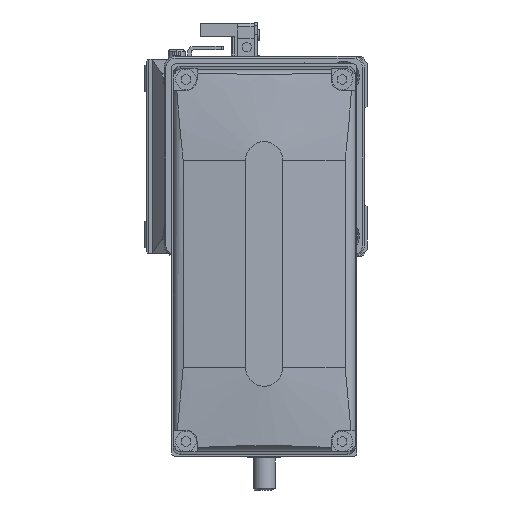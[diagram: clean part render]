
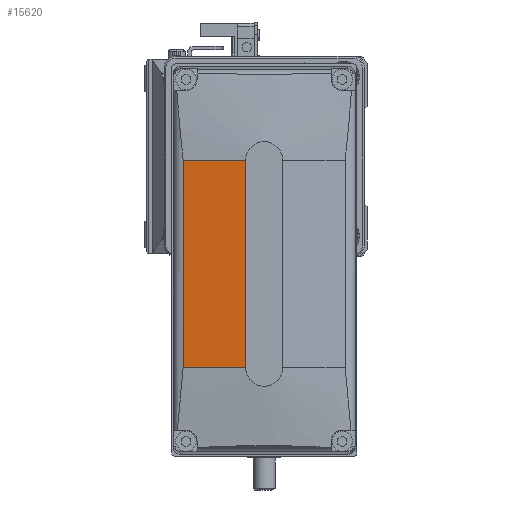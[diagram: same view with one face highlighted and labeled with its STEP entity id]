
A CAD part, left-side view. The second image highlights one B-rep face of the part: STEP entity #15620.
In plain terms, the highlighted planar face has unit normal (-0.996, 0.087, 0) as drawn and (-0.996, 0, -0.087) by its records, which use the part's own axes.
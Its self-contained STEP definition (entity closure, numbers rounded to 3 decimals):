
#1098 = CARTESIAN_POINT ( 'NONE',  ( -50., 128., -5. ) ) ;
#1457 = CARTESIAN_POINT ( 'NONE',  ( -50., -28., -5. ) ) ;
#2751 = EDGE_CURVE ( 'NONE', #3357, #34764, #13392, .T. ) ;
#3206 = VERTEX_POINT ( 'NONE', #1457 ) ;
#3357 = VERTEX_POINT ( 'NONE', #34294 ) ;
#3978 = CARTESIAN_POINT ( 'NONE',  ( 43606.406, 28., -499000. ) ) ;
#4040 = DIRECTION ( 'NONE',  ( -0.996, 0., -0.087 ) ) ;
#4070 = CARTESIAN_POINT ( 'NONE',  ( 43606.406, -28., -499000. ) ) ;
#4610 = ORIENTED_EDGE ( 'NONE', *, *, #23507, .F. ) ;
#5188 = FACE_OUTER_BOUND ( 'NONE', #12129, .T. ) ;
#7132 = DIRECTION ( 'NONE',  ( -0.087, 0., 0.996 ) ) ;
#7193 = DIRECTION ( 'NONE',  ( -0.087, 0., 0.996 ) ) ;
#8089 = CARTESIAN_POINT ( 'NONE',  ( -48.525, -28., -21.861 ) ) ;
#8171 = EDGE_CURVE ( 'NONE', #3206, #36326, #12073, .T. ) ;
#11138 = VECTOR ( 'NONE', #21586, 1000. ) ;
#11230 = ORIENTED_EDGE ( 'NONE', *, *, #8171, .F. ) ;
#12073 = LINE ( 'NONE', #4070, #11138 ) ;
#12129 = EDGE_LOOP ( 'NONE', ( #14505, #4610, #11230, #13014 ) ) ;
#12235 = CARTESIAN_POINT ( 'NONE',  ( -50., 28., -5. ) ) ;
#12735 = PLANE ( 'NONE',  #22742 ) ;
#12841 = VECTOR ( 'NONE', #12949, 1000. ) ;
#12949 = DIRECTION ( 'NONE',  ( 0., 1., 0. ) ) ;
#13014 = ORIENTED_EDGE ( 'NONE', *, *, #36999, .T. ) ;
#13392 = LINE ( 'NONE', #3978, #38394 ) ;
#14218 = LINE ( 'NONE', #30397, #12841 ) ;
#14505 = ORIENTED_EDGE ( 'NONE', *, *, #2751, .F. ) ;
#15620 = ADVANCED_FACE ( 'NONE', ( #5188 ), #12735, .T. ) ;
#17149 = DIRECTION ( 'NONE',  ( 0., 1., 0. ) ) ;
#19692 = VECTOR ( 'NONE', #17149, 1000. ) ;
#21586 = DIRECTION ( 'NONE',  ( 0.087, 0., -0.996 ) ) ;
#22742 = AXIS2_PLACEMENT_3D ( 'NONE', #1098, #4040, #7132 ) ;
#23507 = EDGE_CURVE ( 'NONE', #36326, #3357, #14218, .T. ) ;
#30397 = CARTESIAN_POINT ( 'NONE',  ( -48.525, 128., -21.861 ) ) ;
#32009 = CARTESIAN_POINT ( 'NONE',  ( -50., 128., -5. ) ) ;
#34294 = CARTESIAN_POINT ( 'NONE',  ( -48.525, 28., -21.861 ) ) ;
#34764 = VERTEX_POINT ( 'NONE', #12235 ) ;
#36326 = VERTEX_POINT ( 'NONE', #8089 ) ;
#36341 = LINE ( 'NONE', #32009, #19692 ) ;
#36999 = EDGE_CURVE ( 'NONE', #3206, #34764, #36341, .T. ) ;
#38394 = VECTOR ( 'NONE', #7193, 1000. ) ;
